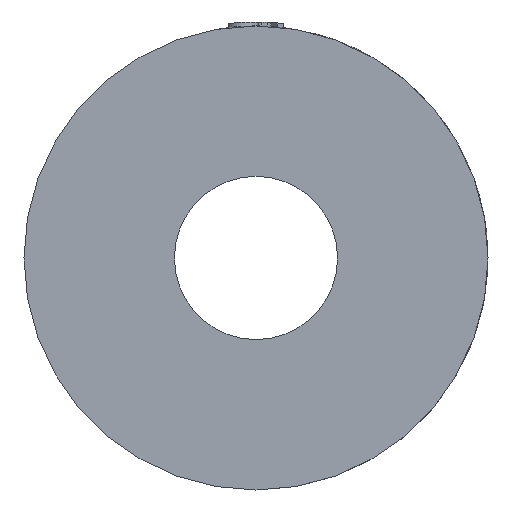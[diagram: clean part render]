
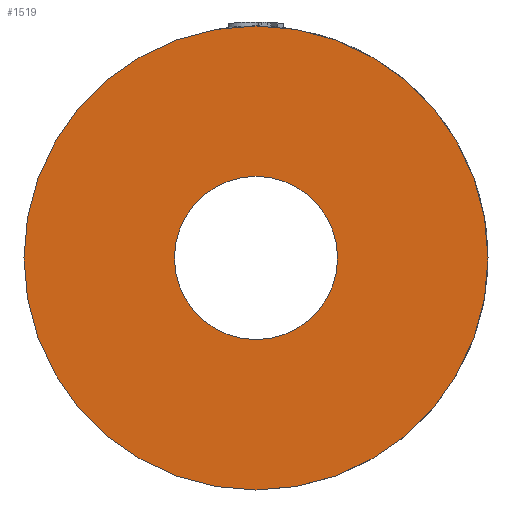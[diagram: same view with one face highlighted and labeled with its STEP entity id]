
A CAD part, left-side view. The second image highlights one B-rep face of the part: STEP entity #1519.
In plain terms, the highlighted planar face has unit normal (-1, 0, 0).
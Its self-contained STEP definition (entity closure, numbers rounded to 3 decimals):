
#123 = CARTESIAN_POINT ( 'NONE',  ( 0., 0., -10.2 ) ) ;
#209 = EDGE_CURVE ( 'NONE', #1178, #1625, #2069, .T. ) ;
#227 = ORIENTED_EDGE ( 'NONE', *, *, #2614, .T. ) ;
#349 = DIRECTION ( 'NONE',  ( -1., 0., 0. ) ) ;
#357 = VERTEX_POINT ( 'NONE', #123 ) ;
#359 = CARTESIAN_POINT ( 'NONE',  ( 0., 0., 0. ) ) ;
#443 = DIRECTION ( 'NONE',  ( 0., 0., 1. ) ) ;
#505 = AXIS2_PLACEMENT_3D ( 'NONE', #943, #934, #929 ) ;
#567 = EDGE_CURVE ( 'NONE', #357, #2180, #3108, .T. ) ;
#617 = CARTESIAN_POINT ( 'NONE',  ( 0., 0., 29. ) ) ;
#651 = CARTESIAN_POINT ( 'NONE',  ( 0., 0., -29. ) ) ;
#695 = EDGE_LOOP ( 'NONE', ( #2095, #930 ) ) ;
#929 = DIRECTION ( 'NONE',  ( 0., 0., 1. ) ) ;
#930 = ORIENTED_EDGE ( 'NONE', *, *, #567, .F. ) ;
#934 = DIRECTION ( 'NONE',  ( -1., 0., 0. ) ) ;
#943 = CARTESIAN_POINT ( 'NONE',  ( 0., 0., 0. ) ) ;
#1005 = DIRECTION ( 'NONE',  ( 0., 0., 1. ) ) ;
#1019 = FACE_OUTER_BOUND ( 'NONE', #3033, .T. ) ;
#1021 = FACE_BOUND ( 'NONE', #695, .T. ) ;
#1178 = VERTEX_POINT ( 'NONE', #617 ) ;
#1225 = CARTESIAN_POINT ( 'NONE',  ( 0., 0., 0. ) ) ;
#1332 = CIRCLE ( 'NONE', #505, 29. ) ;
#1395 = DIRECTION ( 'NONE',  ( 0., 0., 1. ) ) ;
#1402 = DIRECTION ( 'NONE',  ( -1., 0., 0. ) ) ;
#1426 = CARTESIAN_POINT ( 'NONE',  ( 0., 0., 0. ) ) ;
#1519 = ADVANCED_FACE ( 'NONE', ( #1021, #1019 ), #2839, .F. ) ;
#1540 = CIRCLE ( 'NONE', #2898, 10.2 ) ;
#1625 = VERTEX_POINT ( 'NONE', #651 ) ;
#2054 = DIRECTION ( 'NONE',  ( -1., 0., 0. ) ) ;
#2069 = CIRCLE ( 'NONE', #2590, 29. ) ;
#2095 = ORIENTED_EDGE ( 'NONE', *, *, #2493, .F. ) ;
#2108 = ORIENTED_EDGE ( 'NONE', *, *, #209, .T. ) ;
#2178 = CARTESIAN_POINT ( 'NONE',  ( 0., 0., 10.2 ) ) ;
#2180 = VERTEX_POINT ( 'NONE', #2178 ) ;
#2236 = AXIS2_PLACEMENT_3D ( 'NONE', #1225, #2054, #1005 ) ;
#2493 = EDGE_CURVE ( 'NONE', #2180, #357, #1540, .T. ) ;
#2590 = AXIS2_PLACEMENT_3D ( 'NONE', #359, #349, #443 ) ;
#2614 = EDGE_CURVE ( 'NONE', #1625, #1178, #1332, .T. ) ;
#2839 = PLANE ( 'NONE',  #3044 ) ;
#2884 = CARTESIAN_POINT ( 'NONE',  ( 0., 10.2, 0. ) ) ;
#2888 = DIRECTION ( 'NONE',  ( 1., 0., 0. ) ) ;
#2892 = DIRECTION ( 'NONE',  ( 0., 0., -1. ) ) ;
#2898 = AXIS2_PLACEMENT_3D ( 'NONE', #1426, #1402, #1395 ) ;
#3033 = EDGE_LOOP ( 'NONE', ( #2108, #227 ) ) ;
#3044 = AXIS2_PLACEMENT_3D ( 'NONE', #2884, #2888, #2892 ) ;
#3108 = CIRCLE ( 'NONE', #2236, 10.2 ) ;
